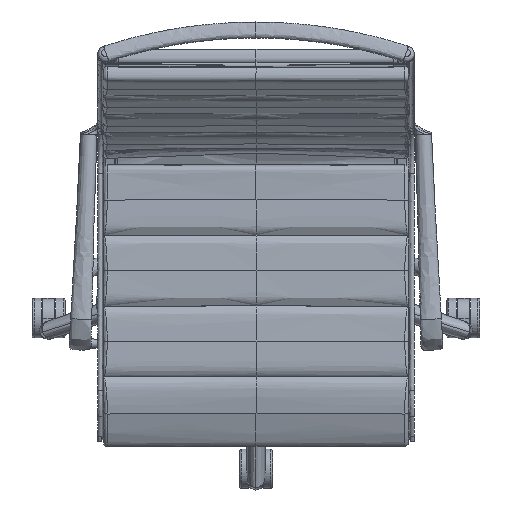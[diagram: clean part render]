
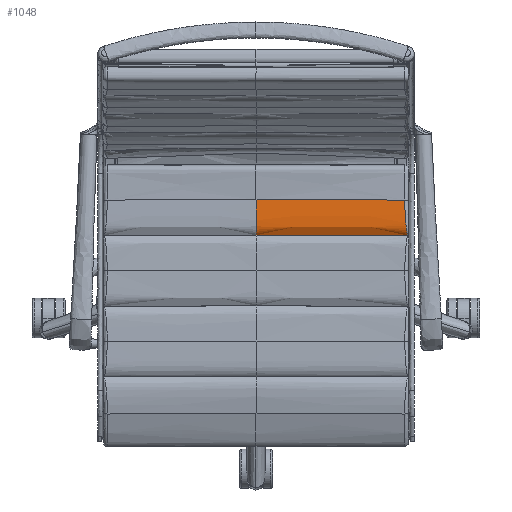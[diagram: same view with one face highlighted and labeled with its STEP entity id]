
A CAD part, top view. The second image highlights one B-rep face of the part: STEP entity #1048.
In plain terms, the highlighted free-form (B-spline) face has degree [3, 3] with [10, 7] control points.
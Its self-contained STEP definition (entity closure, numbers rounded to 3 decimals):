
#1048=ADVANCED_FACE('',(#1893),#13278,.T.);
#1893=FACE_OUTER_BOUND('',#2742,.T.);
#2742=EDGE_LOOP('',(#6241,#6242,#6243,#6244));
#6241=ORIENTED_EDGE('',*,*,#8705,.T.);
#6242=ORIENTED_EDGE('',*,*,#8700,.T.);
#6243=ORIENTED_EDGE('',*,*,#8678,.T.);
#6244=ORIENTED_EDGE('',*,*,#8679,.T.);
#8678=EDGE_CURVE('',#12283,#12284,#10883,.T.);
#8679=EDGE_CURVE('',#12284,#12297,#10884,.T.);
#8700=EDGE_CURVE('',#12301,#12283,#10905,.T.);
#8705=EDGE_CURVE('',#12297,#12301,#10910,.T.);
#10883=B_SPLINE_CURVE_WITH_KNOTS('',3,(#68361,#68362,#68363,#68364,#68365,
#68366,#68367,#68368,#68369,#68370),.UNSPECIFIED.,.F.,.F.,(4,1,1,1,1,1,
1,4),(-55.642,-51.005,-46.369,-41.732,
-37.095,-27.821,-18.547,0.),.UNSPECIFIED.);
#10884=B_SPLINE_CURVE_WITH_KNOTS('',3,(#68371,#68372,#68373,#68374,#68375,
#68376,#68377),.UNSPECIFIED.,.F.,.F.,(4,1,1,1,4),(-41.954,-31.455,
-20.956,-10.457,-0.327),.UNSPECIFIED.);
#10905=B_SPLINE_CURVE_WITH_KNOTS('',3,(#68608,#68609,#68610,#68611,#68612),
 .UNSPECIFIED.,.F.,.F.,(4,1,4),(6.,118.5,231.),
 .UNSPECIFIED.);
#10910=B_SPLINE_CURVE_WITH_KNOTS('',3,(#68706,#68707,#68708,#68709,#68710,
#68711,#68712,#68713,#68714,#68715,#68716,#68717,#68718),.UNSPECIFIED.,
 .F.,.F.,(4,1,1,1,1,1,1,1,1,1,4),(0.,2.457,
4.914,7.245,9.576,14.615,19.653,
26.926,34.199,43.778,53.358),
 .UNSPECIFIED.);
#12283=VERTEX_POINT('',#68296);
#12284=VERTEX_POINT('',#68297);
#12297=VERTEX_POINT('',#68310);
#12301=VERTEX_POINT('',#68314);
#13278=B_SPLINE_SURFACE_WITH_KNOTS('',3,3,((#65648,#65649,#65650,#65651,
#65652,#65653,#65654),(#65655,#65656,#65657,#65658,#65659,#65660,#65661),
(#65662,#65663,#65664,#65665,#65666,#65667,#65668),(#65669,#65670,#65671,
#65672,#65673,#65674,#65675),(#65676,#65677,#65678,#65679,#65680,#65681,
#65682),(#65683,#65684,#65685,#65686,#65687,#65688,#65689),(#65690,#65691,
#65692,#65693,#65694,#65695,#65696),(#65697,#65698,#65699,#65700,#65701,
#65702,#65703),(#65704,#65705,#65706,#65707,#65708,#65709,#65710),(#65711,
#65712,#65713,#65714,#65715,#65716,#65717)),.UNSPECIFIED.,.F.,.F.,.F.,(4,
1,1,1,1,1,1,4),(4,1,1,1,4),(0.,18.547,27.821,37.095,
41.732,46.369,51.005,55.642),(0.327,
10.734,21.14,31.547,41.954),
 .UNSPECIFIED.);
#65648=CARTESIAN_POINT('',(229.199,40.68,502.688));
#65649=CARTESIAN_POINT('',(210.107,40.752,502.686));
#65650=CARTESIAN_POINT('',(171.916,40.878,502.682));
#65651=CARTESIAN_POINT('',(114.62,41.013,502.678));
#65652=CARTESIAN_POINT('',(57.314,41.094,502.675));
#65653=CARTESIAN_POINT('',(19.104,41.112,502.675));
#65654=CARTESIAN_POINT('',(0.,41.112,502.675));
#65655=CARTESIAN_POINT('',(229.199,44.155,506.235));
#65656=CARTESIAN_POINT('',(210.107,44.226,506.232));
#65657=CARTESIAN_POINT('',(171.916,44.352,506.228));
#65658=CARTESIAN_POINT('',(114.62,44.486,506.224));
#65659=CARTESIAN_POINT('',(57.315,44.566,506.222));
#65660=CARTESIAN_POINT('',(19.104,44.584,506.221));
#65661=CARTESIAN_POINT('',(0.,44.584,506.221));
#65662=CARTESIAN_POINT('',(229.199,50.656,508.914));
#65663=CARTESIAN_POINT('',(210.108,50.726,508.911));
#65664=CARTESIAN_POINT('',(171.917,50.849,508.908));
#65665=CARTESIAN_POINT('',(114.621,50.981,508.903));
#65666=CARTESIAN_POINT('',(57.315,51.06,508.901));
#65667=CARTESIAN_POINT('',(19.104,51.078,508.9));
#65668=CARTESIAN_POINT('',(0.,51.078,508.9));
#65669=CARTESIAN_POINT('',(229.199,60.307,509.569));
#65670=CARTESIAN_POINT('',(210.108,60.376,509.567));
#65671=CARTESIAN_POINT('',(171.917,60.496,509.563));
#65672=CARTESIAN_POINT('',(114.621,60.624,509.559));
#65673=CARTESIAN_POINT('',(57.315,60.701,509.556));
#65674=CARTESIAN_POINT('',(19.104,60.719,509.556));
#65675=CARTESIAN_POINT('',(0.,60.719,509.556));
#65676=CARTESIAN_POINT('',(229.199,67.755,509.333));
#65677=CARTESIAN_POINT('',(210.108,67.822,509.331));
#65678=CARTESIAN_POINT('',(171.917,67.939,509.327));
#65679=CARTESIAN_POINT('',(114.622,68.065,509.323));
#65680=CARTESIAN_POINT('',(57.316,68.14,509.321));
#65681=CARTESIAN_POINT('',(19.104,68.157,509.321));
#65682=CARTESIAN_POINT('',(0.,68.157,509.321));
#65683=CARTESIAN_POINT('',(229.199,75.17,509.097));
#65684=CARTESIAN_POINT('',(210.108,75.236,509.095));
#65685=CARTESIAN_POINT('',(171.918,75.353,509.091));
#65686=CARTESIAN_POINT('',(114.622,75.478,509.087));
#65687=CARTESIAN_POINT('',(57.316,75.553,509.084));
#65688=CARTESIAN_POINT('',(19.104,75.569,509.084));
#65689=CARTESIAN_POINT('',(0.,75.569,509.084));
#65690=CARTESIAN_POINT('',(229.199,81.272,508.903));
#65691=CARTESIAN_POINT('',(210.108,81.336,508.901));
#65692=CARTESIAN_POINT('',(171.918,81.447,508.897));
#65693=CARTESIAN_POINT('',(114.623,81.567,508.892));
#65694=CARTESIAN_POINT('',(57.316,81.639,508.89));
#65695=CARTESIAN_POINT('',(19.105,81.655,508.889));
#65696=CARTESIAN_POINT('',(0.,81.655,508.889));
#65697=CARTESIAN_POINT('',(229.199,87.737,508.7));
#65698=CARTESIAN_POINT('',(210.109,87.799,508.699));
#65699=CARTESIAN_POINT('',(171.919,87.906,508.697));
#65700=CARTESIAN_POINT('',(114.623,88.02,508.695));
#65701=CARTESIAN_POINT('',(57.317,88.089,508.694));
#65702=CARTESIAN_POINT('',(19.105,88.104,508.694));
#65703=CARTESIAN_POINT('',(0.,88.104,508.694));
#65704=CARTESIAN_POINT('',(229.199,92.187,508.557));
#65705=CARTESIAN_POINT('',(210.108,92.254,508.555));
#65706=CARTESIAN_POINT('',(171.919,92.376,508.551));
#65707=CARTESIAN_POINT('',(114.624,92.504,508.547));
#65708=CARTESIAN_POINT('',(57.317,92.582,508.544));
#65709=CARTESIAN_POINT('',(19.105,92.599,508.544));
#65710=CARTESIAN_POINT('',(0.,92.599,508.544));
#65711=CARTESIAN_POINT('',(229.198,94.401,508.485));
#65712=CARTESIAN_POINT('',(210.108,94.467,508.482));
#65713=CARTESIAN_POINT('',(171.918,94.585,508.476));
#65714=CARTESIAN_POINT('',(114.623,94.711,508.47));
#65715=CARTESIAN_POINT('',(57.317,94.786,508.466));
#65716=CARTESIAN_POINT('',(19.105,94.803,508.465));
#65717=CARTESIAN_POINT('',(0.,94.803,508.465));
#68296=CARTESIAN_POINT('',(0.,94.803,508.465));
#68297=CARTESIAN_POINT('',(0.,41.112,502.675));
#68310=CARTESIAN_POINT('',(229.199,40.679,502.688));
#68314=CARTESIAN_POINT('',(225.,94.415,508.484));
#68361=CARTESIAN_POINT('',(0.,94.803,508.465));
#68362=CARTESIAN_POINT('',(0.,92.599,508.544));
#68363=CARTESIAN_POINT('',(0.,88.104,508.694));
#68364=CARTESIAN_POINT('',(0.,81.655,508.889));
#68365=CARTESIAN_POINT('',(0.,75.569,509.084));
#68366=CARTESIAN_POINT('',(0.,68.157,509.321));
#68367=CARTESIAN_POINT('',(0.,60.719,509.556));
#68368=CARTESIAN_POINT('',(0.,51.078,508.9));
#68369=CARTESIAN_POINT('',(0.,44.584,506.221));
#68370=CARTESIAN_POINT('',(0.,41.112,502.675));
#68371=CARTESIAN_POINT('',(0.,41.112,502.675));
#68372=CARTESIAN_POINT('',(19.273,41.112,502.675));
#68373=CARTESIAN_POINT('',(57.822,41.094,502.675));
#68374=CARTESIAN_POINT('',(115.636,41.011,502.678));
#68375=CARTESIAN_POINT('',(172.762,40.875,502.682));
#68376=CARTESIAN_POINT('',(210.615,40.749,502.686));
#68377=CARTESIAN_POINT('',(229.199,40.679,502.688));
#68608=CARTESIAN_POINT('',(225.,94.415,508.484));
#68609=CARTESIAN_POINT('',(187.516,94.544,508.478));
#68610=CARTESIAN_POINT('',(112.529,94.738,508.468));
#68611=CARTESIAN_POINT('',(37.511,94.803,508.465));
#68612=CARTESIAN_POINT('',(0.,94.803,508.465));
#68706=CARTESIAN_POINT('',(229.199,40.679,502.688));
#68707=CARTESIAN_POINT('',(229.066,41.293,503.314));
#68708=CARTESIAN_POINT('',(228.803,42.62,504.502));
#68709=CARTESIAN_POINT('',(228.427,44.852,506.002));
#68710=CARTESIAN_POINT('',(228.071,47.246,507.188));
#68711=CARTESIAN_POINT('',(227.613,50.676,508.415));
#68712=CARTESIAN_POINT('',(227.085,55.232,509.264));
#68713=CARTESIAN_POINT('',(226.467,61.444,509.524));
#68714=CARTESIAN_POINT('',(225.928,68.044,509.323));
#68715=CARTESIAN_POINT('',(225.43,76.03,509.07));
#68716=CARTESIAN_POINT('',(225.084,84.827,508.791));
#68717=CARTESIAN_POINT('',(225.001,91.22,508.589));
#68718=CARTESIAN_POINT('',(225.,94.415,508.484));
